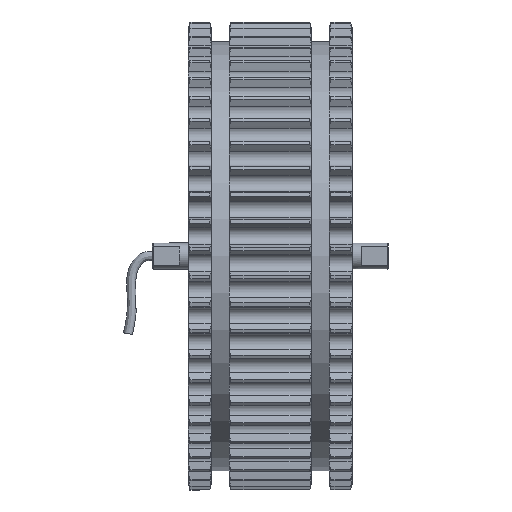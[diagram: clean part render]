
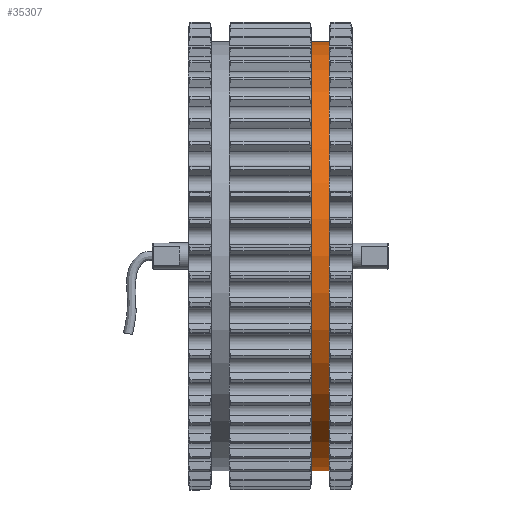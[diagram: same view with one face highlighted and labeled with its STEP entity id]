
A CAD part, front view. The second image highlights one B-rep face of the part: STEP entity #35307.
In plain terms, the highlighted cylindrical face has radius 118 mm (diameter 236 mm), a full revolution.
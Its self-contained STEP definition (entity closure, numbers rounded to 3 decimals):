
#32457=CARTESIAN_POINT('',(0.0,118.,32.5));
#32458=VERTEX_POINT('',#32457);
#32459=CARTESIAN_POINT('',(0.0,0.0,32.5));
#32460=DIRECTION('',(0.0,0.0,1.0));
#32461=DIRECTION('',(0.0,1.0,0.0));
#32462=AXIS2_PLACEMENT_3D('',#32459,#32460,#32461);
#32463=CIRCLE('',#32462,118.);
#32464=EDGE_CURVE('',#32458,#32458,#32463,.T.);
#35224=CARTESIAN_POINT('',(0.0,118.,22.5));
#35225=VERTEX_POINT('',#35224);
#35226=CARTESIAN_POINT('',(0.0,0.0,22.5));
#35227=DIRECTION('',(0.0,0.0,1.0));
#35228=DIRECTION('',(0.0,1.0,0.0));
#35229=AXIS2_PLACEMENT_3D('',#35226,#35227,#35228);
#35230=CIRCLE('',#35229,118.);
#35231=EDGE_CURVE('',#35225,#35225,#35230,.T.);
#35296=CARTESIAN_POINT('',(0.0,0.0,27.5));
#35297=DIRECTION('',(0.0,0.0,1.0));
#35298=DIRECTION('',(0.0,1.0,0.0));
#35299=AXIS2_PLACEMENT_3D('',#35296,#35297,#35298);
#35300=CYLINDRICAL_SURFACE('',#35299,118.);
#35301=ORIENTED_EDGE('',*,*,#35231,.T.);
#35302=EDGE_LOOP('',(#35301));
#35303=FACE_OUTER_BOUND('',#35302,.T.);
#35304=ORIENTED_EDGE('',*,*,#32464,.F.);
#35305=EDGE_LOOP('',(#35304));
#35306=FACE_BOUND('',#35305,.T.);
#35307=ADVANCED_FACE('',(#35303,#35306),#35300,.T.);
